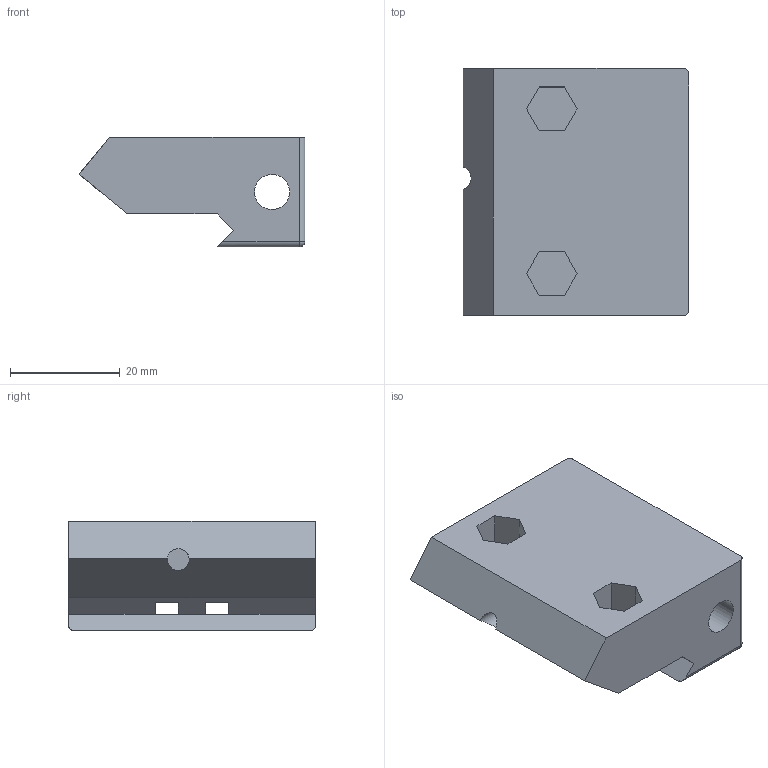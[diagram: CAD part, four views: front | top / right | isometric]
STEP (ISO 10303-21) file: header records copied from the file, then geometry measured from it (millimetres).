
FILE_DESCRIPTION(('FreeCAD Model'),'2;1');
FILE_NAME('/home/grant/Documents/CAD Files/WIP folder/PBW Project Folder/V1.1 STL''s & Steps/Right Block V1.1.step','2020-07-30T16:37:58',('Author'),( ''),'Open CASCADE STEP processor 7.3','FreeCAD','Unknown');
FILE_SCHEMA(('AUTOMOTIVE_DESIGN { 1 0 10303 214 1 1 1 1 }'));
Length unit declared in the file: millimetre
Products named in the file (1): Pocket006
Bounding box: 41.17 x 45 x 20 mm (x, y, z)
Volume: 24989.5 mm3; surface area: 8097.8 mm2
Topology: 1 solids, 1 shells, 43 faces, 119 edges, 76 vertices
Faces by surface type: plane 33, cylinder 8, sphere 2
Full cylindrical faces by diameter (mm): 2.5 x1, 4 x1, 6.4 x1
Entity records: 3124 total; most frequent: CARTESIAN_POINT 728, DIRECTION 443, LINE 315, VECTOR 315, ORIENTED_EDGE 234, PCURVE 234, DEFINITIONAL_REPRESENTATION 234, EDGE_CURVE 117
